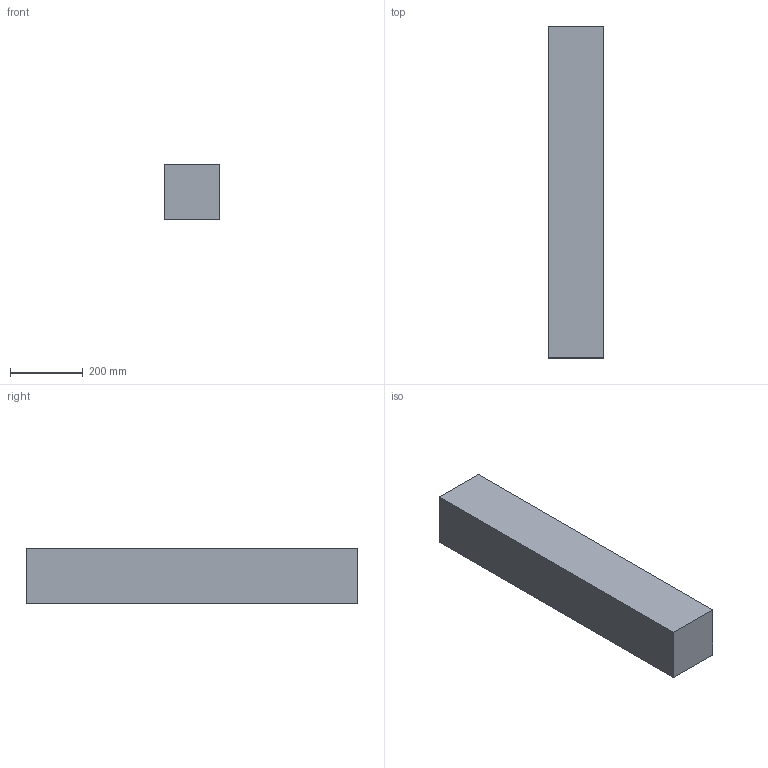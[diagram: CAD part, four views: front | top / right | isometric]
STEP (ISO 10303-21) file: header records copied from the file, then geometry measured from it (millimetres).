
FILE_DESCRIPTION(/* description */ (''),/* implementation_level */ '2;1');
FILE_NAME(/* name */ '6x6x36',/* time_stamp */ '2024-09-20T11:46:57-05:00',/* author */ (''),/* organization */ (''),/* preprocessor_version */ 'ST-DEVELOPER v19.2',/* originating_system */ 'Rhino 8.5',/* authorisation */ '');
FILE_SCHEMA (('CONFIG_CONTROL_DESIGN'));
Length unit declared in the file: inch
Products named in the file (1): Document
Bounding box: 152.4 x 914.4 x 152.4 mm (x, y, z)
Volume: 21237634.9 mm3; surface area: 603869.8 mm2
Topology: 1 solids, 1 shells, 6 faces, 12 edges, 8 vertices
Faces by surface type: plane 6
Entity records: 226 total; most frequent: CARTESIAN_POINT 40, ORIENTED_EDGE 24, EDGE_CURVE 12, B_SPLINE_CURVE_WITH_KNOTS 12, DIRECTION 10, VERTEX_POINT 8, AXIS2_PLACEMENT_3D 8, ORGANIZATION 7
